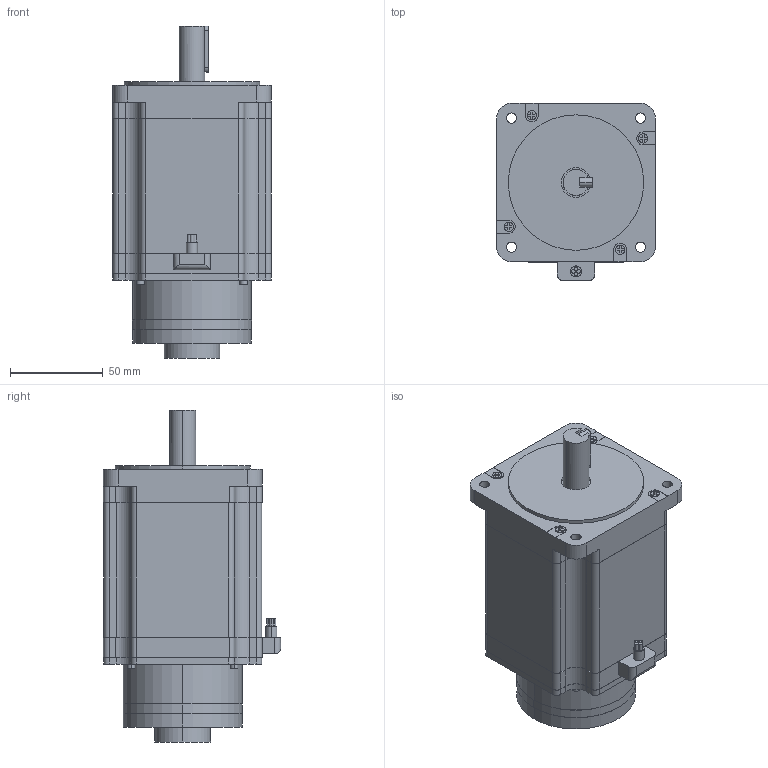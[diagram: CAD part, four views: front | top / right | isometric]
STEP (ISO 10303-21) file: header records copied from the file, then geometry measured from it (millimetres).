
FILE_DESCRIPTION (( 'STEP AP203' ), '1' );
FILE_NAME ('UB86D24-D60-4102.STEP', '2019-11-16T02:50:14', ( 'China' ), ( 'Home' ), 'SwSTEP 2.0', 'SolidWorks 2016', '' );
FILE_SCHEMA (( 'CONFIG_CONTROL_DESIGN' ));
Length unit declared in the file: millimetre
Products named in the file (1): UB86D24-D60-4102
Bounding box: 85.5 x 95.5 x 179 mm (x, y, z)
Volume: 813839 mm3; surface area: 59674.5 mm2
Topology: 1 solids, 2 shells, 295 faces, 774 edges, 514 vertices
Faces by surface type: plane 182, cylinder 113
Entity records: 9220 total; most frequent: CARTESIAN_POINT 1622, DIRECTION 1583, ORIENTED_EDGE 1548, EDGE_CURVE 774, LINE 549, VECTOR 549, AXIS2_PLACEMENT_3D 517, VERTEX_POINT 514
